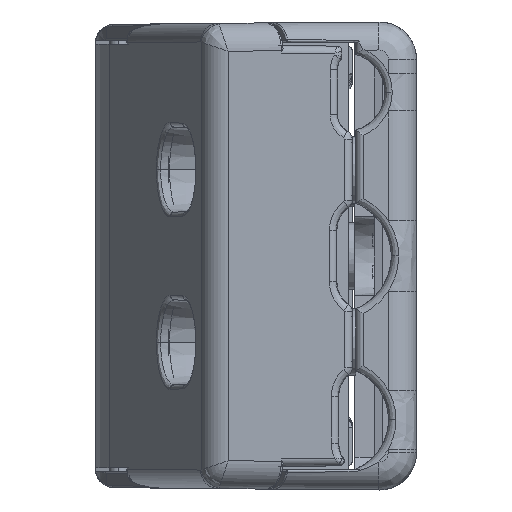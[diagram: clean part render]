
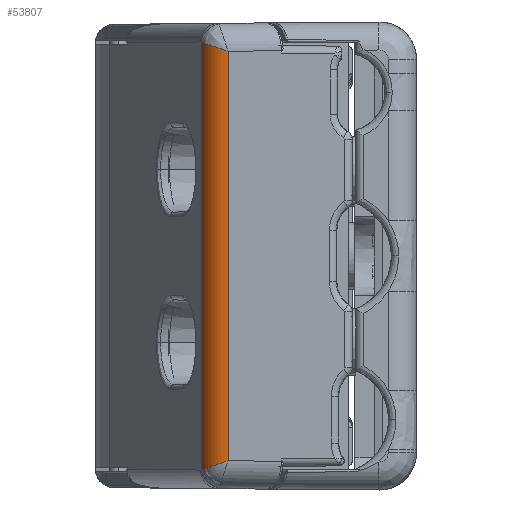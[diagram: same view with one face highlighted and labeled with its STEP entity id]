
A CAD part, left-side view. The second image highlights one B-rep face of the part: STEP entity #53807.
In plain terms, the highlighted cylindrical face has radius 3 mm (diameter 6 mm), a partial arc.
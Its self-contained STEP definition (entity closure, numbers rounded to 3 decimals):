
#1991 = EDGE_CURVE ( 'NONE', #40652, #32868, #66027, .T. ) ;
#5117 = VECTOR ( 'NONE', #72967, 1000. ) ;
#7589 = CARTESIAN_POINT ( 'NONE',  ( -22.898, -6.606, -17.361 ) ) ;
#18630 = CARTESIAN_POINT ( 'NONE',  ( -22.898, -6.606, -17.361 ) ) ;
#26936 = ORIENTED_EDGE ( 'NONE', *, *, #1991, .T. ) ;
#29359 = LINE ( 'NONE', #75830, #121857 ) ;
#31875 = CARTESIAN_POINT ( 'NONE',  ( -22.403, -8.084, -19.522 ) ) ;
#32868 = VERTEX_POINT ( 'NONE', #100875 ) ;
#33471 = DIRECTION ( 'NONE',  ( 0., 0., -1. ) ) ;
#39355 = AXIS2_PLACEMENT_3D ( 'NONE', #154233, #142102, #33471 ) ;
#40652 = VERTEX_POINT ( 'NONE', #101181 ) ;
#53104 = FACE_OUTER_BOUND ( 'NONE', #101776, .T. ) ;
#53807 = ADVANCED_FACE ( 'NONE', ( #53104 ), #145652, .T. ) ;
#66027 =( BOUNDED_CURVE ( )  B_SPLINE_CURVE ( 3, ( #136786, #139384, #81130, #86831 ),
 .UNSPECIFIED., .F., .T. ) 
 B_SPLINE_CURVE_WITH_KNOTS ( ( 4, 4 ),
 ( 0.288, 1.571 ),
 .UNSPECIFIED. ) 
 CURVE ( )  GEOMETRIC_REPRESENTATION_ITEM ( )  RATIONAL_B_SPLINE_CURVE ( ( 1., 0.868, 0.868, 1. ) ) 
 REPRESENTATION_ITEM ( '' )  );
#72967 = DIRECTION ( 'NONE',  ( 1., 0., 0. ) ) ;
#75830 = CARTESIAN_POINT ( 'NONE',  ( 25., -6.606, -17.361 ) ) ;
#78035 = ORIENTED_EDGE ( 'NONE', *, *, #141231, .F. ) ;
#78259 =( BOUNDED_CURVE ( )  B_SPLINE_CURVE ( 3, ( #7589, #115685, #31875, #116206 ),
 .UNSPECIFIED., .F., .F. ) 
 B_SPLINE_CURVE_WITH_KNOTS ( ( 4, 4 ),
 ( 3.43, 4.712 ),
 .UNSPECIFIED. ) 
 CURVE ( )  GEOMETRIC_REPRESENTATION_ITEM ( )  RATIONAL_B_SPLINE_CURVE ( ( 1., 0.868, 0.868, 1. ) ) 
 REPRESENTATION_ITEM ( '' )  );
#79814 = EDGE_CURVE ( 'NONE', #94125, #32868, #137282, .T. ) ;
#81130 = CARTESIAN_POINT ( 'NONE',  ( 22.403, -8.084, -19.522 ) ) ;
#86831 = CARTESIAN_POINT ( 'NONE',  ( 21.947, -9.464, -19.534 ) ) ;
#94125 = VERTEX_POINT ( 'NONE', #153681 ) ;
#100875 = CARTESIAN_POINT ( 'NONE',  ( 21.947, -9.464, -19.534 ) ) ;
#101181 = CARTESIAN_POINT ( 'NONE',  ( 22.898, -6.606, -17.361 ) ) ;
#101776 = EDGE_LOOP ( 'NONE', ( #125521, #78035, #127598, #26936 ) ) ;
#112282 = EDGE_CURVE ( 'NONE', #40652, #146164, #29359, .T. ) ;
#115685 = CARTESIAN_POINT ( 'NONE',  ( -22.768, -6.986, -18.687 ) ) ;
#116206 = CARTESIAN_POINT ( 'NONE',  ( -21.947, -9.464, -19.534 ) ) ;
#121857 = VECTOR ( 'NONE', #148001, 1000. ) ;
#125521 = ORIENTED_EDGE ( 'NONE', *, *, #79814, .F. ) ;
#127598 = ORIENTED_EDGE ( 'NONE', *, *, #112282, .F. ) ;
#133035 = CARTESIAN_POINT ( 'NONE',  ( 22.7, -9.464, -19.534 ) ) ;
#136786 = CARTESIAN_POINT ( 'NONE',  ( 22.898, -6.606, -17.361 ) ) ;
#137282 = LINE ( 'NONE', #133035, #5117 ) ;
#139384 = CARTESIAN_POINT ( 'NONE',  ( 22.768, -6.986, -18.687 ) ) ;
#141231 = EDGE_CURVE ( 'NONE', #146164, #94125, #78259, .T. ) ;
#142102 = DIRECTION ( 'NONE',  ( 1., 0., 0. ) ) ;
#145652 = CYLINDRICAL_SURFACE ( 'NONE', #39355, 3. ) ;
#146164 = VERTEX_POINT ( 'NONE', #18630 ) ;
#148001 = DIRECTION ( 'NONE',  ( -1., 0., 0. ) ) ;
#153681 = CARTESIAN_POINT ( 'NONE',  ( -21.947, -9.464, -19.534 ) ) ;
#154233 = CARTESIAN_POINT ( 'NONE',  ( 25., -9.49, -16.534 ) ) ;
